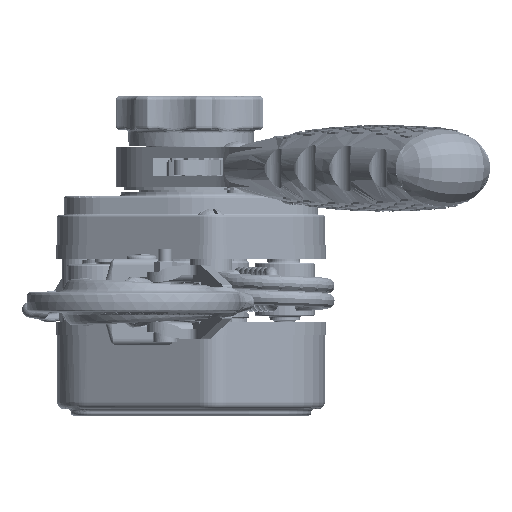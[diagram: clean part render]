
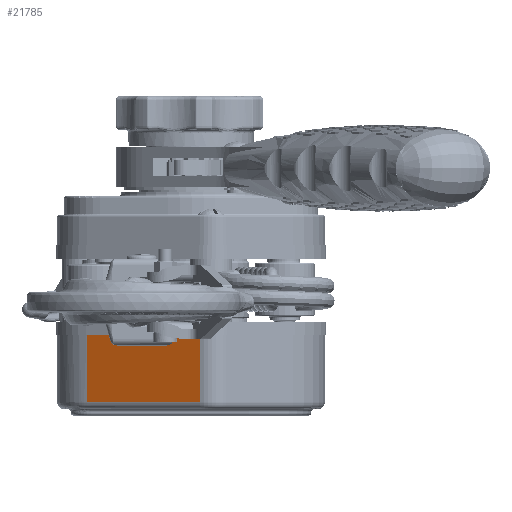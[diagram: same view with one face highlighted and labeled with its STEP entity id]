
A CAD part, front view. The second image highlights one B-rep face of the part: STEP entity #21785.
In plain terms, the highlighted planar face has unit normal (-0.471, -0.882, 0) as drawn and (0.471, -0.882, 0) by its records, which use the part's own axes.
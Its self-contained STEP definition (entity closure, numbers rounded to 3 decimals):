
#891 = VERTEX_POINT ( 'NONE', #36192 ) ;
#6287 = DIRECTION ( 'NONE',  ( -0.882, -0.471, 0. ) ) ;
#8398 = DIRECTION ( 'NONE',  ( 0., 0., -1. ) ) ;
#8698 = LINE ( 'NONE', #121981, #135255 ) ;
#15810 = EDGE_CURVE ( 'NONE', #128973, #891, #88832, .T. ) ;
#19806 = ORIENTED_EDGE ( 'NONE', *, *, #15810, .F. ) ;
#21785 = ADVANCED_FACE ( 'NONE', ( #176280 ), #158241, .F. ) ;
#34532 = CARTESIAN_POINT ( 'NONE',  ( -2.706, -35.676, 22. ) ) ;
#35326 = VECTOR ( 'NONE', #8398, 1000. ) ;
#36192 = CARTESIAN_POINT ( 'NONE',  ( 31.265, -17.559, 0. ) ) ;
#38872 = DIRECTION ( 'NONE',  ( 0.882, 0.471, 0. ) ) ;
#59571 = CARTESIAN_POINT ( 'NONE',  ( -2.706, -35.676, 22. ) ) ;
#65521 = VERTEX_POINT ( 'NONE', #127822 ) ;
#67850 = CARTESIAN_POINT ( 'NONE',  ( 31.265, -17.559, 22. ) ) ;
#72069 = EDGE_CURVE ( 'NONE', #128973, #121862, #146967, .T. ) ;
#75445 = EDGE_CURVE ( 'NONE', #121862, #65521, #168473, .T. ) ;
#84615 = VECTOR ( 'NONE', #6287, 1000. ) ;
#88832 = LINE ( 'NONE', #67850, #126624 ) ;
#88962 = EDGE_CURVE ( 'NONE', #65521, #891, #8698, .T. ) ;
#92163 = CARTESIAN_POINT ( 'NONE',  ( -2.706, -35.676, 20. ) ) ;
#111309 = DIRECTION ( 'NONE',  ( 0., 0., -1. ) ) ;
#117550 = ORIENTED_EDGE ( 'NONE', *, *, #72069, .T. ) ;
#121862 = VERTEX_POINT ( 'NONE', #92163 ) ;
#121981 = CARTESIAN_POINT ( 'NONE',  ( -2.706, -35.676, 0. ) ) ;
#126624 = VECTOR ( 'NONE', #111309, 1000. ) ;
#127822 = CARTESIAN_POINT ( 'NONE',  ( -2.706, -35.676, 0. ) ) ;
#128326 = CARTESIAN_POINT ( 'NONE',  ( 31.265, -17.559, 20. ) ) ;
#128973 = VERTEX_POINT ( 'NONE', #128326 ) ;
#131563 = ORIENTED_EDGE ( 'NONE', *, *, #88962, .T. ) ;
#133445 = CARTESIAN_POINT ( 'NONE',  ( -2.706, -35.676, 20. ) ) ;
#135255 = VECTOR ( 'NONE', #38872, 1000. ) ;
#145163 = DIRECTION ( 'NONE',  ( -0.882, -0.471, 0. ) ) ;
#146967 = LINE ( 'NONE', #133445, #84615 ) ;
#146991 = AXIS2_PLACEMENT_3D ( 'NONE', #59571, #172452, #145163 ) ;
#158241 = PLANE ( 'NONE',  #146991 ) ;
#168473 = LINE ( 'NONE', #34532, #35326 ) ;
#172452 = DIRECTION ( 'NONE',  ( -0.471, 0.882, 0. ) ) ;
#176280 = FACE_OUTER_BOUND ( 'NONE', #179978, .T. ) ;
#179978 = EDGE_LOOP ( 'NONE', ( #19806, #117550, #183561, #131563 ) ) ;
#183561 = ORIENTED_EDGE ( 'NONE', *, *, #75445, .T. ) ;
